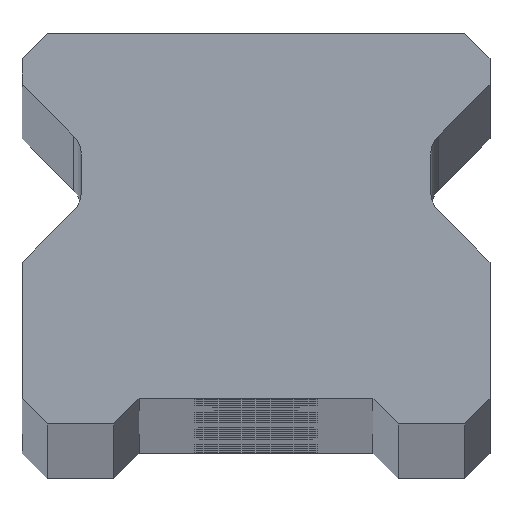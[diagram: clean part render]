
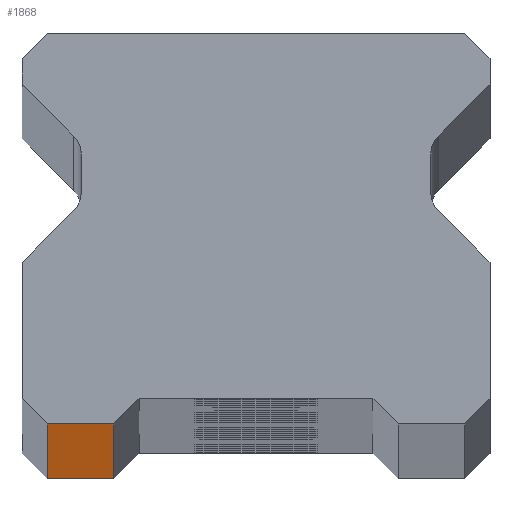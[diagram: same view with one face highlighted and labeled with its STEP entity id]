
A CAD part, top view. The second image highlights one B-rep face of the part: STEP entity #1868.
In plain terms, the highlighted planar face has unit normal (0, -1, 0).
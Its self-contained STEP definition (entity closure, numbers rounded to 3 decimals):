
#266 = CARTESIAN_POINT ( 'NONE',  ( 11.5, 0., 770. ) ) ;
#279 = CARTESIAN_POINT ( 'NONE',  ( 11.5, 0., -770. ) ) ;
#316 = VECTOR ( 'NONE', #1460, 1000. ) ;
#767 = DIRECTION ( 'NONE',  ( 1., 0., 0. ) ) ;
#891 = ORIENTED_EDGE ( 'NONE', *, *, #4195, .F. ) ;
#935 = CARTESIAN_POINT ( 'NONE',  ( -10.25, 0., -770. ) ) ;
#1056 = EDGE_CURVE ( 'NONE', #1305, #2463, #5103, .T. ) ;
#1305 = VERTEX_POINT ( 'NONE', #935 ) ;
#1460 = DIRECTION ( 'NONE',  ( 0., 0., -1. ) ) ;
#1759 = VECTOR ( 'NONE', #4727, 1000. ) ;
#1843 = DIRECTION ( 'NONE',  ( -1., 0., 0. ) ) ;
#1868 = ADVANCED_FACE ( 'NONE', ( #4703 ), #3082, .F. ) ;
#1903 = CARTESIAN_POINT ( 'NONE',  ( -7., 0., -770. ) ) ;
#1922 = CARTESIAN_POINT ( 'NONE',  ( -10.25, 0., 770. ) ) ;
#1939 = VECTOR ( 'NONE', #2294, 1000. ) ;
#2008 = AXIS2_PLACEMENT_3D ( 'NONE', #3558, #4411, #1843 ) ;
#2075 = LINE ( 'NONE', #4914, #1939 ) ;
#2294 = DIRECTION ( 'NONE',  ( 0., 0., 1. ) ) ;
#2463 = VERTEX_POINT ( 'NONE', #1903 ) ;
#3000 = EDGE_LOOP ( 'NONE', ( #3567, #4737, #891, #4942 ) ) ;
#3082 = PLANE ( 'NONE',  #2008 ) ;
#3093 = CARTESIAN_POINT ( 'NONE',  ( -7., 0., 770. ) ) ;
#3505 = EDGE_CURVE ( 'NONE', #2463, #5110, #2075, .T. ) ;
#3558 = CARTESIAN_POINT ( 'NONE',  ( 11.5, 0., 770. ) ) ;
#3566 = VECTOR ( 'NONE', #767, 1000. ) ;
#3567 = ORIENTED_EDGE ( 'NONE', *, *, #1056, .T. ) ;
#3710 = LINE ( 'NONE', #266, #3566 ) ;
#4195 = EDGE_CURVE ( 'NONE', #5673, #5110, #3710, .T. ) ;
#4411 = DIRECTION ( 'NONE',  ( 0., 1., 0. ) ) ;
#4703 = FACE_OUTER_BOUND ( 'NONE', #3000, .T. ) ;
#4727 = DIRECTION ( 'NONE',  ( 1., 0., 0. ) ) ;
#4737 = ORIENTED_EDGE ( 'NONE', *, *, #3505, .T. ) ;
#4914 = CARTESIAN_POINT ( 'NONE',  ( -7., 0., -770. ) ) ;
#4942 = ORIENTED_EDGE ( 'NONE', *, *, #5653, .T. ) ;
#5103 = LINE ( 'NONE', #279, #1759 ) ;
#5110 = VERTEX_POINT ( 'NONE', #3093 ) ;
#5113 = LINE ( 'NONE', #1922, #316 ) ;
#5432 = CARTESIAN_POINT ( 'NONE',  ( -10.25, 0., 770. ) ) ;
#5653 = EDGE_CURVE ( 'NONE', #5673, #1305, #5113, .T. ) ;
#5673 = VERTEX_POINT ( 'NONE', #5432 ) ;
